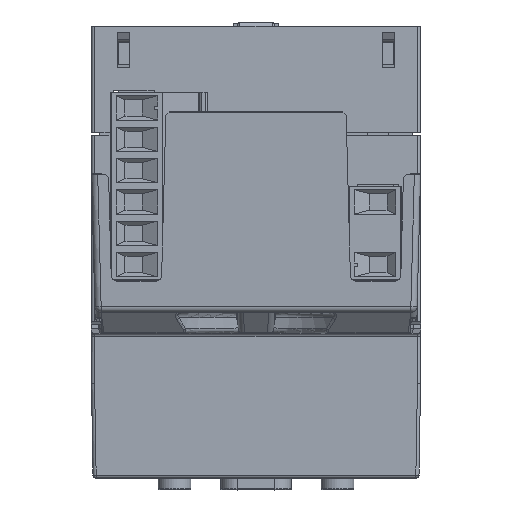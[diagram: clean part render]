
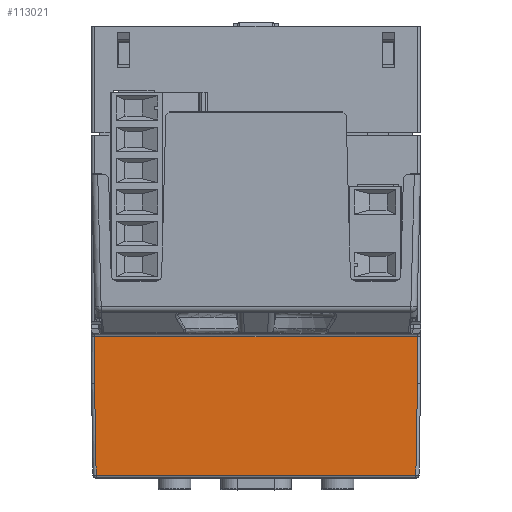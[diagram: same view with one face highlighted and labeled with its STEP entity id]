
A CAD part, front view. The second image highlights one B-rep face of the part: STEP entity #113021.
In plain terms, the highlighted planar face has unit normal (0, -1, -0.018).
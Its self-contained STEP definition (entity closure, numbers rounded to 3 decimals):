
#8442=CARTESIAN_POINT('',(25.75,-22.5,
-40.));
#8463=DIRECTION('',(0.,-0.017,1.));
#8464=VECTOR('',#8463,7.51);
#8465=CARTESIAN_POINT('',(25.75,-22.5,
-40.));
#8466=LINE('',#8465,#8464);
#8522=DIRECTION('',(1.,0.,0.));
#8523=VECTOR('',#8522,50.992);
#8524=CARTESIAN_POINT('',(-25.496,-22.246,
-54.559));
#8525=LINE('',#8524,#8523);
#27635=DIRECTION('',(-1.,0.,0.));
#27636=VECTOR('',#27635,51.5);
#27637=CARTESIAN_POINT('',(25.75,-22.631,-32.491));
#27638=LINE('',#27637,#27636);
#27642=DIRECTION('',(-0.017,0.017,-1.));
#27643=VECTOR('',#27642,14.563);
#27644=CARTESIAN_POINT('',(25.75,-22.5,
-40.));
#27645=LINE('',#27644,#27643);
#27649=DIRECTION('',(-0.017,-0.017,1.));
#27650=VECTOR('',#27649,14.563);
#27651=CARTESIAN_POINT('',(-25.496,-22.246,
-54.559));
#27652=LINE('',#27651,#27650);
#27672=CARTESIAN_POINT('',(-25.75,-22.5,
-40.));
#27677=DIRECTION('',(0.,0.017,-1.));
#27678=VECTOR('',#27677,7.51);
#27679=CARTESIAN_POINT('',(-25.75,-22.631,-32.491));
#27680=LINE('',#27679,#27678);
#84930=CARTESIAN_POINT('',(-25.75,-22.631,-32.491));
#84931=VERTEX_POINT('',#84930);
#85006=CARTESIAN_POINT('',(25.75,-22.631,-32.491));
#85007=VERTEX_POINT('',#85006);
#85879=CARTESIAN_POINT('',(25.496,-22.246,
-54.559));
#85880=VERTEX_POINT('',#85879);
#86018=CARTESIAN_POINT('',(-25.496,-22.246,
-54.559));
#86019=VERTEX_POINT('',#86018);
#86081=VERTEX_POINT('',#8442);
#86090=VERTEX_POINT('',#27672);
#113006=CARTESIAN_POINT('',(27.368,-22.5,-40.));
#113007=DIRECTION('',(0.,-1.,-0.017));
#113008=DIRECTION('',(-1.,0.,0.));
#113009=AXIS2_PLACEMENT_3D('',#113006,#113007,#113008);
#113010=PLANE('',#113009);
#113011=ORIENTED_EDGE('',*,*,#100430,.F.);
#113012=ORIENTED_EDGE('',*,*,#100447,.T.);
#113013=ORIENTED_EDGE('',*,*,#100502,.F.);
#113015=ORIENTED_EDGE('',*,*,#113014,.T.);
#113017=ORIENTED_EDGE('',*,*,#113016,.F.);
#113018=ORIENTED_EDGE('',*,*,#112999,.F.);
#113019=EDGE_LOOP('',(#113011,#113012,#113013,#113015,#113017,#113018));
#113020=FACE_OUTER_BOUND('',#113019,.F.);
#100430=EDGE_CURVE('',#86081,#85007,#8466,.T.);
#100447=EDGE_CURVE('',#86081,#85880,#27645,.T.);
#100502=EDGE_CURVE('',#86019,#85880,#8525,.T.);
#112999=EDGE_CURVE('',#85007,#84931,#27638,.T.);
#113014=EDGE_CURVE('',#86019,#86090,#27652,.T.);
#113016=EDGE_CURVE('',#84931,#86090,#27680,.T.);
#113021=ADVANCED_FACE('',(#113020),#113010,.T.);
